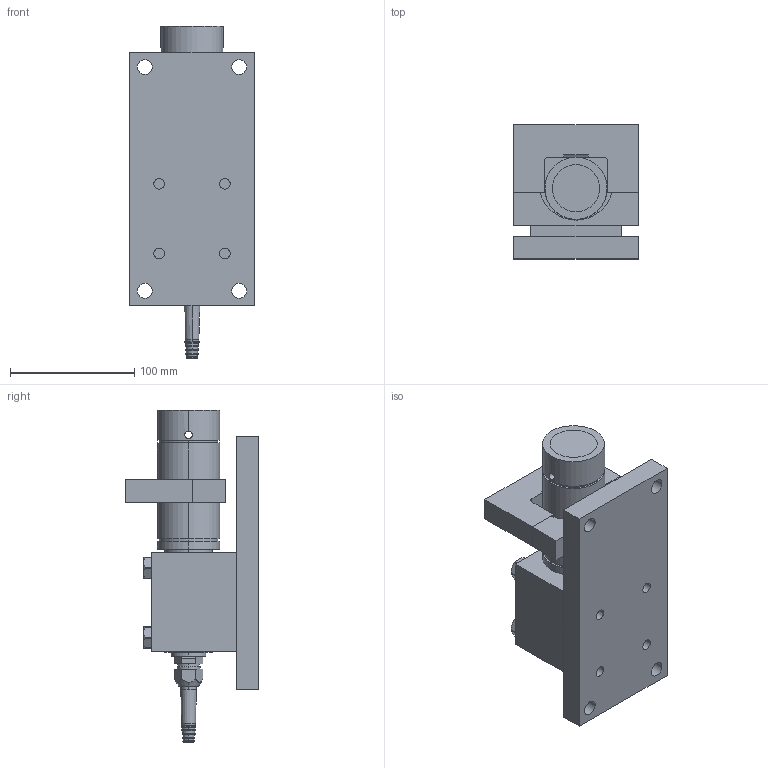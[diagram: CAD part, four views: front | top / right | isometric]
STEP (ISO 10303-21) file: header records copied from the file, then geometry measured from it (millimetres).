
FILE_DESCRIPTION (( 'STEP AP214' ), '1' );
FILE_NAME ('KIS-8 5-20 kN Module.STEP', '2021-06-30T10:26:53', ( '' ), ( '' ), 'SwSTEP 2.0', 'SolidWorks 2021', '' );
FILE_SCHEMA (( 'AUTOMOTIVE_DESIGN' ));
Length unit declared in the file: millimetre
Products named in the file (10): KIS-8 5-20 kN Module; M10x70; 500003r2; M26x1.5 - Pg9 - 6369829; 6365326r1  tippskydd KIS-8 10-30 kN; 500004r0 Platta KIS-8 5-20 kN; 400061r2; Pg9 - 1009.52 6_2_14; 6365325r2 OK KIS-8 10-30 kN; 500002r0
Assembly tree (12 placements, depth 2):
  KIS-8 5-20 kN Module
    400061r2
    500002r0
    500003r2
    M26x1.5 - Pg9 - 6369829
    Pg9 - 1009.52 6_2_14
    M10x70  x4
    6365325r2 OK KIS-8 10-30 kN
    500004r0 Platta KIS-8 5-20 kN
    6365326r1  tippskydd KIS-8 10-30 kN
Bounding box: 100 x 107.5 x 267 mm (x, y, z)
Volume: 1045284.7 mm3; surface area: 214418.7 mm2
Topology: 12 solids, 15 shells, 368 faces, 872 edges, 546 vertices
Faces by surface type: cylinder 145, plane 112, cone 71, bspline 26, torus 14
Entity records: 10702 total; most frequent: CARTESIAN_POINT 2516, DIRECTION 1591, ORIENTED_EDGE 1420, EDGE_CURVE 710, AXIS2_PLACEMENT_3D 649, VERTEX_POINT 444, EDGE_LOOP 362, CIRCLE 361
